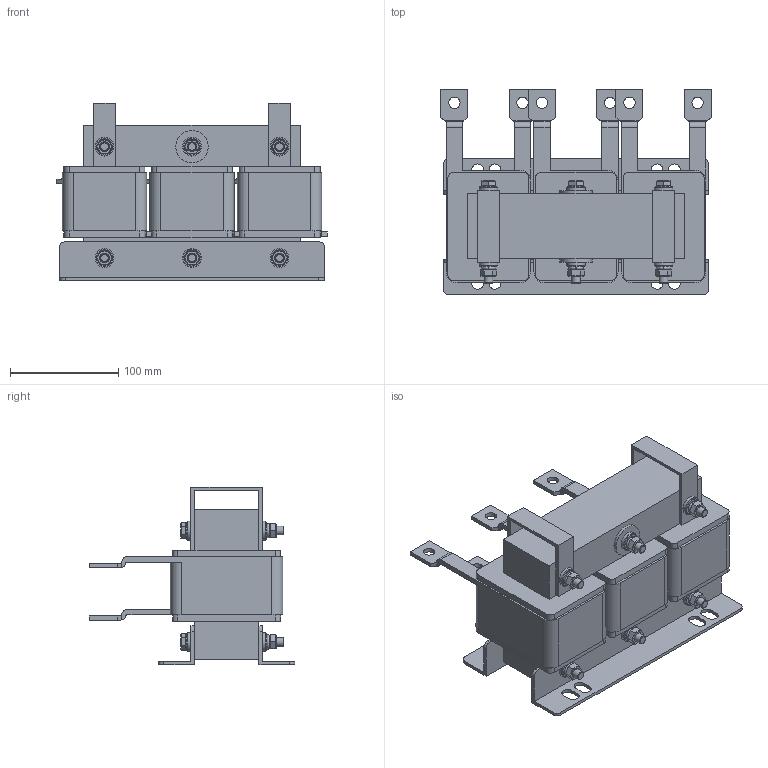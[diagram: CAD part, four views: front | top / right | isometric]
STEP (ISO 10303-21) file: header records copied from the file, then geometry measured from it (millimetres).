
FILE_DESCRIPTION(('STEP AP203'), '1');
FILE_NAME('栖闉罻 _ IMF-75_152-4', '', ('UNSPECIFIED'), ('UNSPECIFIED'), 'ASCON STEP Converter 1.6', 'ASCON Math Kernel', '');
FILE_SCHEMA(('CONFIG_CONTROL_DESIGN'));
Length unit declared in the file: millimetre
Products named in the file (13): IMF-75_152-4
Assembly tree (59 placements, depth 2):
  IMF-75_152-4
    IMF-75_152-4
    IMF-75_152-4  x2
    IMF-75_152-4  x6
    IMF-75_152-4  x3
    IMF-75_152-4
    IMF-75_152-4  x2
    IMF-75_152-4  x12
    IMF-75_152-4  x2
    IMF-75_152-4  x12
    IMF-75_152-4  x6
    IMF-75_152-4  x6
    IMF-75_152-4  x6
Bounding box: 250 x 190 x 164 mm (x, y, z)
Volume: 2626000.5 mm3; surface area: 442817.9 mm2
Topology: 59 solids, 59 shells, 694 faces, 1536 edges, 966 vertices
Faces by surface type: plane 494, cylinder 170, cone 18, torus 12
Full cylindrical faces by diameter (mm): 8 x54, 10.4 x6, 15.7 x12, 17.5 x12, 30 x2
Entity records: 7167 total; most frequent: CARTESIAN_POINT 1259, DIRECTION 944, ORIENTED_EDGE 778, EDGE_CURVE 389, AXIS2_PLACEMENT_3D 334, LINE 276, VECTOR 276, VERTEX_POINT 265
